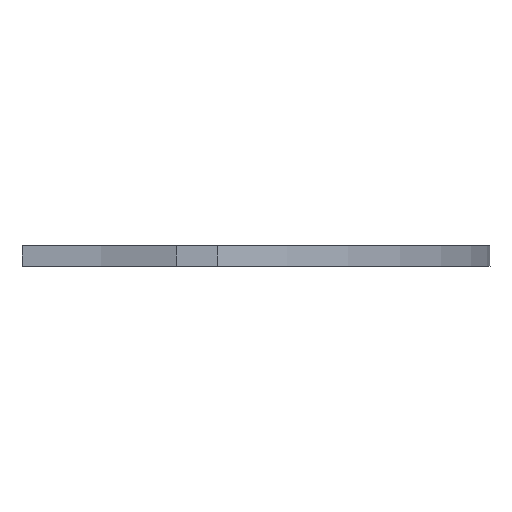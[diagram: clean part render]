
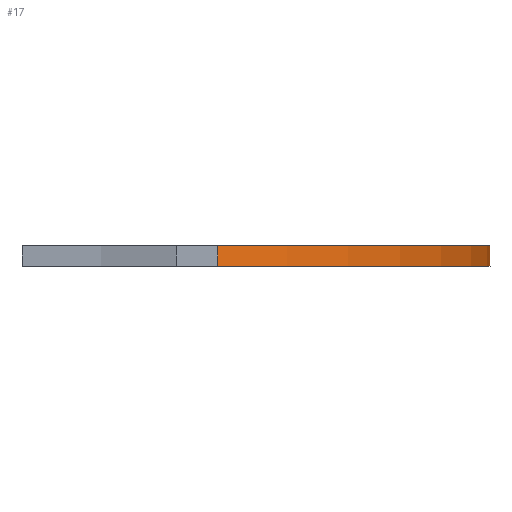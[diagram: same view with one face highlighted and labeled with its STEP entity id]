
A CAD part, front view. The second image highlights one B-rep face of the part: STEP entity #17.
In plain terms, the highlighted cylindrical face has radius 23.4 mm (diameter 46.8 mm), a partial arc.
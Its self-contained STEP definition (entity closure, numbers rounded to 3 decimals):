
#17 = ADVANCED_FACE('',(#18),#33,.T.);
#18 = FACE_BOUND('',#19,.F.);
#19 = EDGE_LOOP('',(#20,#56,#82,#115));
#20 = ORIENTED_EDGE('',*,*,#21,.F.);
#21 = EDGE_CURVE('',#22,#24,#26,.T.);
#22 = VERTEX_POINT('',#23);
#23 = CARTESIAN_POINT('',(9.906,-21.2,10.5));
#24 = VERTEX_POINT('',#25);
#25 = CARTESIAN_POINT('',(0.2,23.399,10.5));
#26 = SURFACE_CURVE('',#27,(#32,#44),.PCURVE_S1.);
#27 = CIRCLE('',#28,23.4);
#28 = AXIS2_PLACEMENT_3D('',#29,#30,#31);
#29 = CARTESIAN_POINT('',(0.,0.,10.5));
#30 = DIRECTION('',(0.,0.,1.));
#31 = DIRECTION('',(0.423,-0.906,0.));
#32 = PCURVE('',#33,#38);
#33 = CYLINDRICAL_SURFACE('',#34,23.4);
#34 = AXIS2_PLACEMENT_3D('',#35,#36,#37);
#35 = CARTESIAN_POINT('',(0.,0.,10.5));
#36 = DIRECTION('',(-0.,-0.,-1.));
#37 = DIRECTION('',(1.,0.,0.));
#38 = DEFINITIONAL_REPRESENTATION('',(#39),#43);
#39 = LINE('',#40,#41);
#40 = CARTESIAN_POINT('',(-5.149,0.));
#41 = VECTOR('',#42,1.);
#42 = DIRECTION('',(-1.,0.));
#43 = ( GEOMETRIC_REPRESENTATION_CONTEXT(2) 
PARAMETRIC_REPRESENTATION_CONTEXT() REPRESENTATION_CONTEXT('2D SPACE',''
  ) );
#44 = PCURVE('',#45,#50);
#45 = PLANE('',#46);
#46 = AXIS2_PLACEMENT_3D('',#47,#48,#49);
#47 = CARTESIAN_POINT('',(0.,0.,10.5));
#48 = DIRECTION('',(0.,0.,1.));
#49 = DIRECTION('',(1.,0.,-0.));
#50 = DEFINITIONAL_REPRESENTATION('',(#51),#55);
#51 = CIRCLE('',#52,23.4);
#52 = AXIS2_PLACEMENT_2D('',#53,#54);
#53 = CARTESIAN_POINT('',(0.,0.));
#54 = DIRECTION('',(0.423,-0.906));
#55 = ( GEOMETRIC_REPRESENTATION_CONTEXT(2) 
PARAMETRIC_REPRESENTATION_CONTEXT() REPRESENTATION_CONTEXT('2D SPACE',''
  ) );
#56 = ORIENTED_EDGE('',*,*,#57,.F.);
#57 = EDGE_CURVE('',#58,#22,#60,.T.);
#58 = VERTEX_POINT('',#59);
#59 = CARTESIAN_POINT('',(9.906,-21.2,11.5));
#60 = SURFACE_CURVE('',#61,(#65,#71),.PCURVE_S1.);
#61 = LINE('',#62,#63);
#62 = CARTESIAN_POINT('',(9.906,-21.2,10.5));
#63 = VECTOR('',#64,1.);
#64 = DIRECTION('',(-0.,-0.,-1.));
#65 = PCURVE('',#33,#66);
#66 = DEFINITIONAL_REPRESENTATION('',(#67),#70);
#67 = B_SPLINE_CURVE_WITH_KNOTS('',1,(#68,#69),.UNSPECIFIED.,.F.,.F.,(2,
    2),(-1.,0.),.PIECEWISE_BEZIER_KNOTS.);
#68 = CARTESIAN_POINT('',(-5.149,-1.));
#69 = CARTESIAN_POINT('',(-5.149,0.));
#70 = ( GEOMETRIC_REPRESENTATION_CONTEXT(2) 
PARAMETRIC_REPRESENTATION_CONTEXT() REPRESENTATION_CONTEXT('2D SPACE',''
  ) );
#71 = PCURVE('',#72,#77);
#72 = PLANE('',#73);
#73 = AXIS2_PLACEMENT_3D('',#74,#75,#76);
#74 = CARTESIAN_POINT('',(-50.,-21.2,-1.));
#75 = DIRECTION('',(0.,1.,0.));
#76 = DIRECTION('',(0.,0.,1.));
#77 = DEFINITIONAL_REPRESENTATION('',(#78),#81);
#78 = B_SPLINE_CURVE_WITH_KNOTS('',1,(#79,#80),.UNSPECIFIED.,.F.,.F.,(2,
    2),(-1.,0.),.PIECEWISE_BEZIER_KNOTS.);
#79 = CARTESIAN_POINT('',(12.5,59.906));
#80 = CARTESIAN_POINT('',(11.5,59.906));
#81 = ( GEOMETRIC_REPRESENTATION_CONTEXT(2) 
PARAMETRIC_REPRESENTATION_CONTEXT() REPRESENTATION_CONTEXT('2D SPACE',''
  ) );
#82 = ORIENTED_EDGE('',*,*,#83,.F.);
#83 = EDGE_CURVE('',#84,#58,#86,.T.);
#84 = VERTEX_POINT('',#85);
#85 = CARTESIAN_POINT('',(0.2,23.399,11.5));
#86 = SURFACE_CURVE('',#87,(#92,#99),.PCURVE_S1.);
#87 = CIRCLE('',#88,23.4);
#88 = AXIS2_PLACEMENT_3D('',#89,#90,#91);
#89 = CARTESIAN_POINT('',(0.,0.,11.5));
#90 = DIRECTION('',(-0.,0.,-1.));
#91 = DIRECTION('',(-0.423,-0.906,0.));
#92 = PCURVE('',#33,#93);
#93 = DEFINITIONAL_REPRESENTATION('',(#94),#98);
#94 = LINE('',#95,#96);
#95 = CARTESIAN_POINT('',(-10.558,-1.));
#96 = VECTOR('',#97,1.);
#97 = DIRECTION('',(1.,-0.));
#98 = ( GEOMETRIC_REPRESENTATION_CONTEXT(2) 
PARAMETRIC_REPRESENTATION_CONTEXT() REPRESENTATION_CONTEXT('2D SPACE',''
  ) );
#99 = PCURVE('',#100,#105);
#100 = PLANE('',#101);
#101 = AXIS2_PLACEMENT_3D('',#102,#103,#104);
#102 = CARTESIAN_POINT('',(0.,0.,11.5));
#103 = DIRECTION('',(0.,0.,1.));
#104 = DIRECTION('',(1.,0.,-0.));
#105 = DEFINITIONAL_REPRESENTATION('',(#106),#114);
#106 = ( BOUNDED_CURVE() B_SPLINE_CURVE(2,(#107,#108,#109,#110,#111,#112
,#113),.UNSPECIFIED.,.T.,.F.) B_SPLINE_CURVE_WITH_KNOTS((1,2,2,2,2,1),(
    -2.094,0.,2.094,4.189,6.283,
8.378),.UNSPECIFIED.) CURVE() GEOMETRIC_REPRESENTATION_ITEM() 
RATIONAL_B_SPLINE_CURVE((1.,0.5,1.,0.5,1.,0.5,1.)) REPRESENTATION_ITEM(
  '') );
#107 = CARTESIAN_POINT('',(-9.906,-21.2));
#108 = CARTESIAN_POINT('',(-46.625,-4.043));
#109 = CARTESIAN_POINT('',(-13.407,19.178));
#110 = CARTESIAN_POINT('',(19.811,42.4));
#111 = CARTESIAN_POINT('',(23.313,2.022));
#112 = CARTESIAN_POINT('',(26.814,-38.357));
#113 = CARTESIAN_POINT('',(-9.906,-21.2));
#114 = ( GEOMETRIC_REPRESENTATION_CONTEXT(2) 
PARAMETRIC_REPRESENTATION_CONTEXT() REPRESENTATION_CONTEXT('2D SPACE',''
  ) );
#115 = ORIENTED_EDGE('',*,*,#116,.T.);
#116 = EDGE_CURVE('',#84,#24,#117,.T.);
#117 = SURFACE_CURVE('',#118,(#122,#128),.PCURVE_S1.);
#118 = LINE('',#119,#120);
#119 = CARTESIAN_POINT('',(0.2,23.399,10.5));
#120 = VECTOR('',#121,1.);
#121 = DIRECTION('',(-0.,-0.,-1.));
#122 = PCURVE('',#33,#123);
#123 = DEFINITIONAL_REPRESENTATION('',(#124),#127);
#124 = B_SPLINE_CURVE_WITH_KNOTS('',1,(#125,#126),.UNSPECIFIED.,.F.,.F.,
  (2,2),(-1.,0.),.PIECEWISE_BEZIER_KNOTS.);
#125 = CARTESIAN_POINT('',(-7.845,-1.));
#126 = CARTESIAN_POINT('',(-7.845,0.));
#127 = ( GEOMETRIC_REPRESENTATION_CONTEXT(2) 
PARAMETRIC_REPRESENTATION_CONTEXT() REPRESENTATION_CONTEXT('2D SPACE',''
  ) );
#128 = PCURVE('',#129,#134);
#129 = PLANE('',#130);
#130 = AXIS2_PLACEMENT_3D('',#131,#132,#133);
#131 = CARTESIAN_POINT('',(0.2,-50.,10.));
#132 = DIRECTION('',(1.,0.,0.));
#133 = DIRECTION('',(0.,0.,1.));
#134 = DEFINITIONAL_REPRESENTATION('',(#135),#138);
#135 = B_SPLINE_CURVE_WITH_KNOTS('',1,(#136,#137),.UNSPECIFIED.,.F.,.F.,
  (2,2),(-1.,0.),.PIECEWISE_BEZIER_KNOTS.);
#136 = CARTESIAN_POINT('',(1.5,-73.399));
#137 = CARTESIAN_POINT('',(0.5,-73.399));
#138 = ( GEOMETRIC_REPRESENTATION_CONTEXT(2) 
PARAMETRIC_REPRESENTATION_CONTEXT() REPRESENTATION_CONTEXT('2D SPACE',''
  ) );
